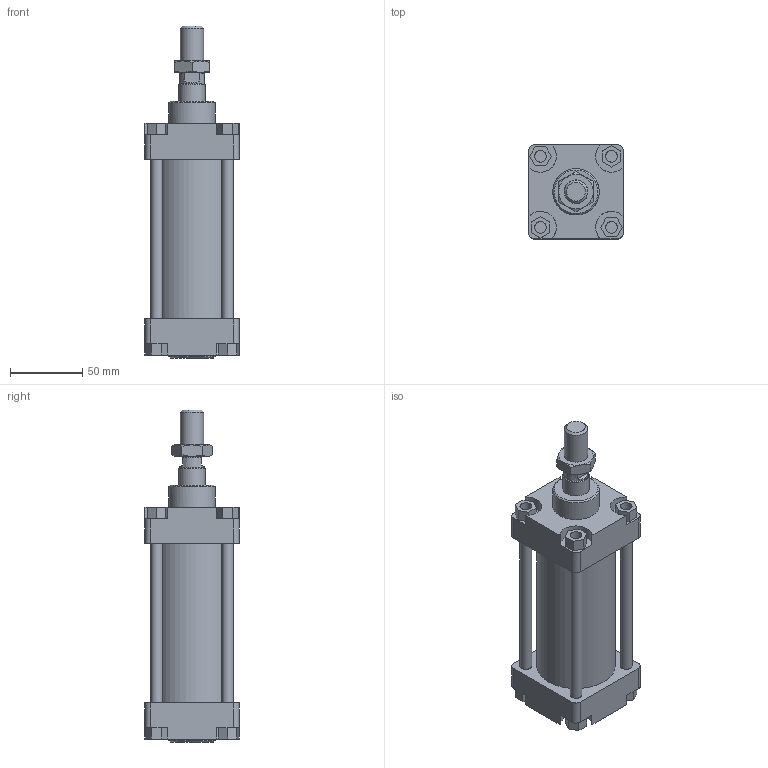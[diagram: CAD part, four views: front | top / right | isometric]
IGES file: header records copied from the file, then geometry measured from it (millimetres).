
Global section: file name: 130#_050_0050_01A; native system: Autodesk Inventor 2014; preprocessor: unknown; author: A. Manieri; date: 20161123.145401; units: millimetre
Bounding box: 65 x 65 x 229 mm (x, y, z)
Volume: 395516.6 mm3; surface area: 113721.1 mm2
Topology: 9 solids, 9 shells, 163 faces, 401 edges, 268 vertices
Faces by surface type: bspline 163
